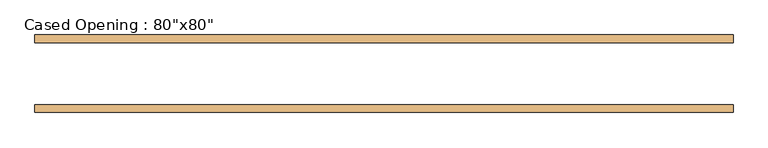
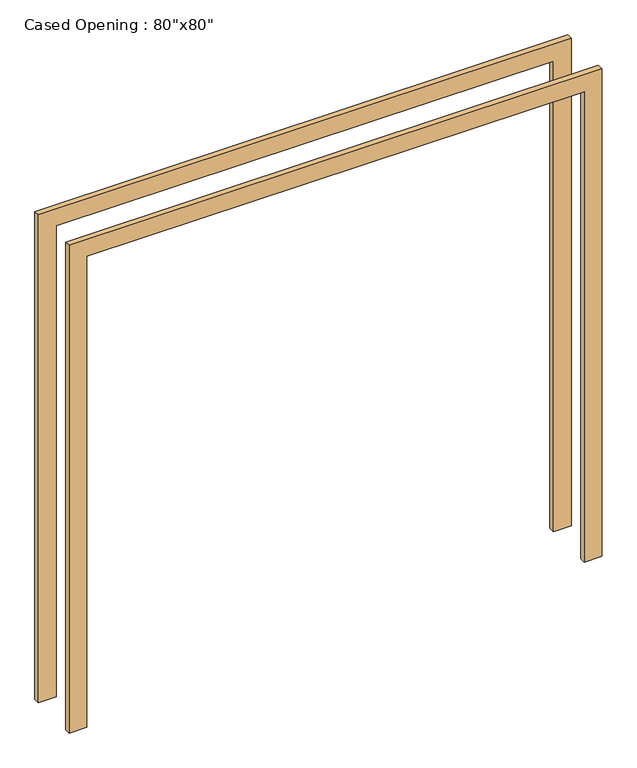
"""IFC4 building model written with IfcOpenShell, lengths in millimetres: door geometry."""

import ifcopenshell
import ifcopenshell.guid

model = None  # the IFC model being written
_history = None  # IfcOwnerHistory: only IFC2X3 demands one
_inside = {}  # id of a spatial element -> (the spatial element, [elements in it])
_under = {}  # id of a project, library or spatial element -> (it, [spatial elements below it])
_declared = {}  # id of a project -> (the project, [libraries it declares])
_typed = {}  # id of a type object -> (the type object, [elements of that type])
_made_of = {}  # id of a material, layer set ... -> (it, [elements and type objects made of it])


def new_model(schema):
    """Start an empty IFC model of exactly this schema.

    Asked for "IFC4X3", IfcOpenShell would pick the latest addendum, in which some entities
    have other attributes; the version numbers below select the first issue.
    IFC2X3 requires an IfcOwnerHistory on every rooted entity: one is made here for all.
    """
    global model, _history
    if schema == "IFC4X3":
        model = ifcopenshell.file(schema_version=(4, 3, 0, 0))
    else:
        model = ifcopenshell.file(schema=schema)
    _inside.clear()
    _under.clear()
    _declared.clear()
    _typed.clear()
    _made_of.clear()
    _history = None
    if model.schema == "IFC2X3":
        org = make("IfcOrganization", Name="unknown")
        user = make(
            "IfcPersonAndOrganization",
            ThePerson=make("IfcPerson", FamilyName="unknown"),
            TheOrganization=org,
        )
        app = make(
            "IfcApplication",
            ApplicationDeveloper=org,
            Version="unknown",
            ApplicationFullName="unknown",
            ApplicationIdentifier="unknown",
        )
        _history = make(
            "IfcOwnerHistory",
            OwningUser=user,
            OwningApplication=app,
            ChangeAction="ADDED",
            CreationDate=0,
        )
    return model


def make(cls, **values):
    """One entity of the class cls with the attributes given. An attribute that is None is left unset."""
    return model.create_entity(
        cls, **{name: value for name, value in values.items() if value is not None}
    )


def rooted(cls, **values):
    """An entity with a GlobalId (a new one), such as an element, a storey or a relation."""
    return make(cls, GlobalId=ifcopenshell.guid.new(), OwnerHistory=_history, **values)


def si_unit(unit_type, name, prefix=None):
    """IfcSIUnit, for example si_unit("LENGTHUNIT", "METRE", prefix="MILLI")."""
    return make("IfcSIUnit", UnitType=unit_type, Prefix=prefix, Name=name)


def assignment(units):
    """IfcUnitAssignment: the units of a project."""
    return None if units is None else make("IfcUnitAssignment", Units=units)


def point(xyz):
    """IfcCartesianPoint."""
    return None if xyz is None else make("IfcCartesianPoint", Coordinates=xyz)


def direction(xyz):
    """IfcDirection."""
    return None if xyz is None else make("IfcDirection", DirectionRatios=xyz)


def frame(location, z_axis=None, x_axis=None):
    """IfcAxis2Placement3D, a coordinate frame: its origin and axes. An axis left out is left unset."""
    return make(
        "IfcAxis2Placement3D",
        Location=point(location),
        Axis=direction(z_axis),
        RefDirection=direction(x_axis),
    )


def origin():
    """The frame at (0, 0, 0) with its axes left unset."""
    return frame((0.0, 0.0, 0.0))


def place(relative_to, where):
    """IfcLocalPlacement: puts the frame where relative to a parent placement (None: the world)."""
    return make(
        "IfcLocalPlacement", PlacementRelTo=relative_to, RelativePlacement=where
    )


def context(
    kind, dimensions, precision=None, world=None, true_north=None, identifier=None
):
    """IfcGeometricRepresentationContext, for example the 3D "Model" context."""
    return make(
        "IfcGeometricRepresentationContext",
        ContextIdentifier=identifier,
        ContextType=kind,
        CoordinateSpaceDimension=dimensions,
        Precision=precision,
        WorldCoordinateSystem=world,
        TrueNorth=true_north,
    )


def project(units=None, contexts=None):
    """IfcProject with its units and contexts."""
    return rooted(
        "IfcProject",
        Name="project",
        RepresentationContexts=contexts,
        UnitsInContext=assignment(units),
    )


def spatial(cls, under=None, at=None, **own):
    """A site, building, storey or space (cls), placed at a placement, below another one or the project."""
    s = rooted(cls, ObjectPlacement=at, **own)
    if under is not None:
        _under.setdefault(under.id(), (under, []))[1].append(s)
    return s


def polyline(points):
    """IfcPolyline through the points."""
    return make("IfcPolyline", Points=[point(p) for p in points])


def outline(outer, holes=None, kind="AREA"):
    """IfcArbitraryClosedProfileDef: a profile drawn as a closed curve; with holes, ...WithVoids."""
    if holes is None:
        return make("IfcArbitraryClosedProfileDef", ProfileType=kind, OuterCurve=outer)
    return make(
        "IfcArbitraryProfileDefWithVoids",
        ProfileType=kind,
        OuterCurve=outer,
        InnerCurves=holes,
    )


def extrude(swept, where, along, depth):
    """IfcExtrudedAreaSolid: the profile swept, set in the frame where, extruded along a direction by depth."""
    return make(
        "IfcExtrudedAreaSolid",
        SweptArea=swept,
        Position=where,
        ExtrudedDirection=direction(along),
        Depth=depth,
    )


def shape(context_of_items, identifier, shape_type, items):
    """IfcShapeRepresentation: the items that make up one representation, for example the "Body"."""
    return make(
        "IfcShapeRepresentation",
        ContextOfItems=context_of_items,
        RepresentationIdentifier=identifier,
        RepresentationType=shape_type,
        Items=items,
    )


def source(mapping_origin, context_of_items, identifier, shape_type, items):
    """IfcRepresentationMap: a shape defined once, which mapped items show again and again."""
    return make(
        "IfcRepresentationMap",
        MappingOrigin=mapping_origin,
        MappedRepresentation=shape(context_of_items, identifier, shape_type, items),
    )


def transform(
    local_origin,
    x_axis=None,
    y_axis=None,
    z_axis=None,
    scale=None,
    scale2=None,
    scale3=None,
    uniform=True,
):
    """IfcCartesianTransformationOperator3D, or its non-uniform kind. x_axis, y_axis, z_axis: its Axis1, 2, 3."""
    if uniform:
        return make(
            "IfcCartesianTransformationOperator3D",
            Axis1=direction(x_axis),
            Axis2=direction(y_axis),
            LocalOrigin=point(local_origin),
            Scale=scale,
            Axis3=direction(z_axis),
        )
    return make(
        "IfcCartesianTransformationOperator3DnonUniform",
        Axis1=direction(x_axis),
        Axis2=direction(y_axis),
        LocalOrigin=point(local_origin),
        Scale=scale,
        Axis3=direction(z_axis),
        Scale2=scale2,
        Scale3=scale3,
    )


def mapped(mapping_source, mapping_target):
    """IfcMappedItem: shows the shape of a source again, moved by a transform."""
    return make(
        "IfcMappedItem", MappingSource=mapping_source, MappingTarget=mapping_target
    )


def made_of(thing, what):
    """Note that an element or type object is made of a material, layer set ...; save() writes the relation."""
    if what is not None:
        _made_of.setdefault(what.id(), (what, []))[1].append(thing)
    return thing


def element(
    cls,
    number,
    at=None,
    inside=None,
    cuts=None,
    type_object=None,
    material=None,
    context=None,
    identifier="Body",
    shape_type=None,
    held_by="IfcProductDefinitionShape",
    body=None,
    shapes=None,
    **own,
):
    """One element of the class cls, such as IfcWall. Its Tag is "e" and its number.

    at: its placement. inside: the storey or other place that contains it. cuts: it is an
    opening in that element (IfcRelVoidsElement). A single representation is given by context,
    identifier, shape_type and body (its items); several are given by shapes. held_by: the class
    of the entity that holds the representations. save() writes the other relations.
    """
    e = rooted(cls, Tag="e%d" % number, ObjectPlacement=at, **own)
    if body is not None:
        shapes = [shape(context, identifier, shape_type, body)]
    if shapes is not None:
        e.Representation = make(held_by, Representations=shapes)
    if inside is not None:
        _inside.setdefault(inside.id(), (inside, []))[1].append(e)
    if cuts is not None:
        rooted(
            "IfcRelVoidsElement", RelatingBuildingElement=cuts, RelatedOpeningElement=e
        )
    if type_object is not None:
        _typed.setdefault(type_object.id(), (type_object, []))[1].append(e)
    return made_of(e, material)


def aggregate(whole, parts):
    """IfcRelAggregates: a whole, such as a stair, and the parts it consists of."""
    return rooted("IfcRelAggregates", RelatingObject=whole, RelatedObjects=parts)


def save(model, path):
    """Write the relations noted so far, then the file.

    IfcRelAggregates (storeys below a building ...), IfcRelContainedInSpatialStructure (elements
    in a storey), IfcRelDefinesByType, IfcRelAssociatesMaterial and IfcRelDeclares: one each for
    every whole, place, type object, material and project.
    """
    for whole, parts in _under.values():
        aggregate(whole, parts)
    for where, things in _inside.values():
        rooted(
            "IfcRelContainedInSpatialStructure",
            RelatedElements=things,
            RelatingStructure=where,
        )
    for kind, things in _typed.values():
        rooted("IfcRelDefinesByType", RelatedObjects=things, RelatingType=kind)
    for what, things in _made_of.values():
        rooted("IfcRelAssociatesMaterial", RelatedObjects=things, RelatingMaterial=what)
    for by, libraries in _declared.values():
        rooted("IfcRelDeclares", RelatingContext=by, RelatedDefinitions=libraries)
    model.write(path)


def door_0c7c62f1(model_context):
    return source(origin(), model_context, "Body", "SweptSolid", [
        extrude(outline(polyline([(2133.6, 1066.8), (0.0, 1066.8), (0.0, 1143.0), (2209.8, 1143.0), (2209.8, -1143.0), (0.0, -1143.0), (0.0, -1066.8), (2133.6, -1066.8), (2133.6, 1066.8)])), frame((0.0, 101.6, 0.0), z_axis=(0.0, 1.0, 0.0), x_axis=(0.0, 0.0, 1.0)), (0.0, 0.0, 1.0), 25.4),
        extrude(outline(polyline([(0.0, -1143.0), (0.0, -1066.8), (2133.6, -1066.8), (2133.6, 1066.8), (0.0, 1066.8), (0.0, 1143.0), (2209.8, 1143.0), (2209.8, -1143.0), (0.0, -1143.0)])), frame((0.0, -127.0, 0.0), z_axis=(0.0, 1.0, 0.0), x_axis=(0.0, 0.0, 1.0)), (0.0, 0.0, 1.0), 25.4),
    ])


if __name__ == "__main__":
    model = new_model("IFC4")
    model_context = context("Model", 3, world=origin())
    ifc_project = project(units=[si_unit("LENGTHUNIT", "METRE", prefix="MILLI")], contexts=[model_context])
    site = spatial("IfcSite", under=ifc_project)
    building = spatial("IfcBuilding", under=site)
    placement = place(None, origin())
    door_shape = door_0c7c62f1(model_context)
    element("IfcDoor", 1, ObjectType="Cased Opening : 80\"x80\"", at=placement, inside=building, context=model_context, shape_type="MappedRepresentation", body=[
        mapped(door_shape, transform((0.0, 0.0, 0.0), x_axis=(1.0, 0.0, 0.0), y_axis=(0.0, 1.0, 0.0), z_axis=(0.0, 0.0, 1.0))),
    ])
    save(model, "model.ifc")
